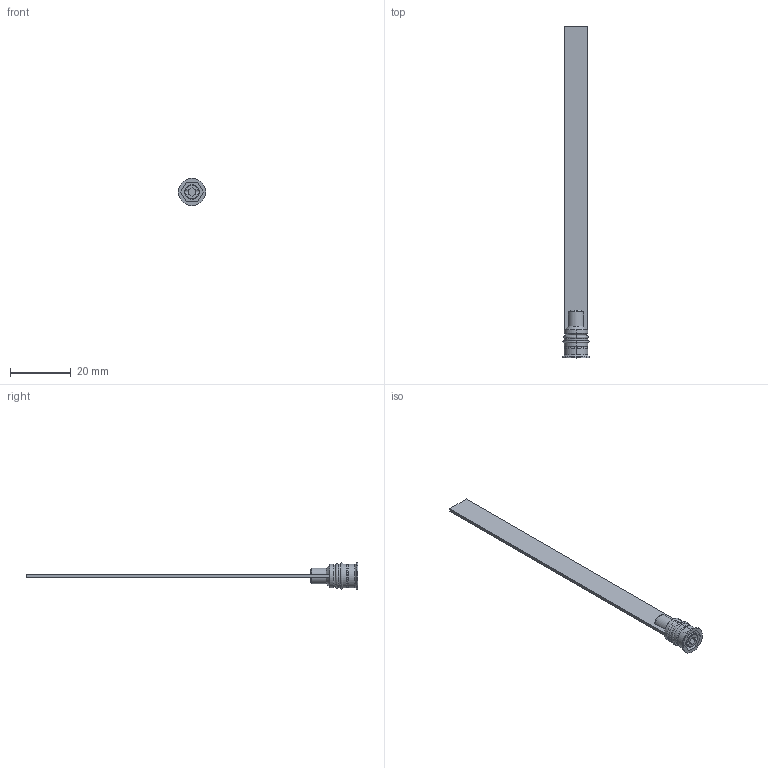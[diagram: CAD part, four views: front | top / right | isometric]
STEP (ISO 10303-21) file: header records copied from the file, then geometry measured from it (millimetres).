
FILE_DESCRIPTION (( 'STEP AP203' ), '1' );
FILE_NAME ('RL-8Fx100.STEP', '2015-12-01T16:05:51', ( 'Balzi' ), ( '' ), 'SwSTEP 2.0', 'SolidWorks 2015', '' );
FILE_SCHEMA (( 'CONFIG_CONTROL_DESIGN' ));
Length unit declared in the file: millimetre
Products named in the file (1): RL-8Fx100
Bounding box: 9 x 109.5 x 9 mm (x, y, z)
Volume: 1272.2 mm3; surface area: 2326.3 mm2
Topology: 1 solids, 1 shells, 72 faces, 171 edges, 105 vertices
Faces by surface type: plane 30, cone 17, cylinder 17, torus 8
Entity records: 2165 total; most frequent: CARTESIAN_POINT 399, DIRECTION 370, ORIENTED_EDGE 342, EDGE_CURVE 171, AXIS2_PLACEMENT_3D 140, VERTEX_POINT 105, LINE 90, VECTOR 90
